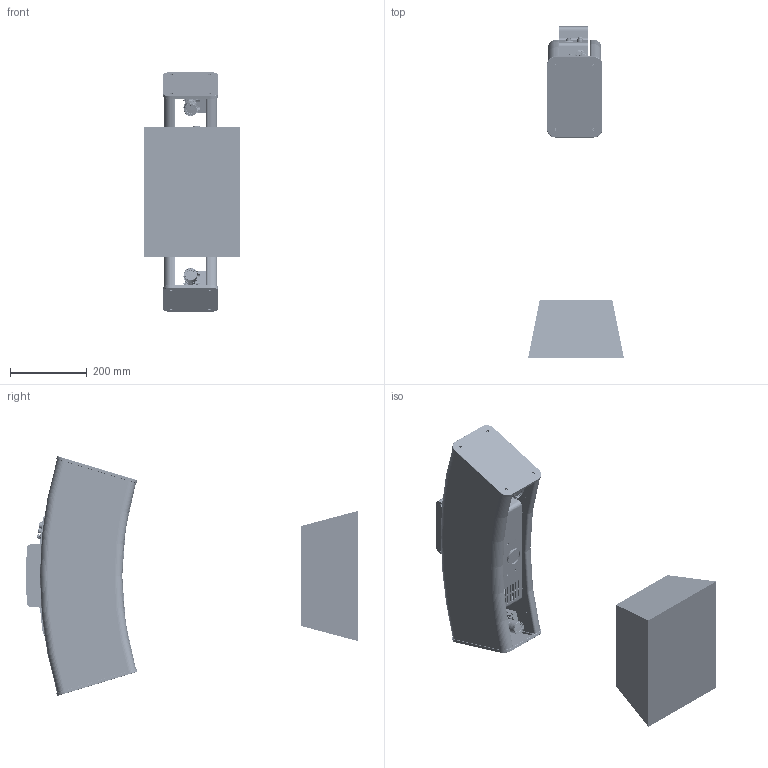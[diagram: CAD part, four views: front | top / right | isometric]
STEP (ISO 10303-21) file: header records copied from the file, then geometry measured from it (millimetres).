
FILE_DESCRIPTION((''),'2;1');
FILE_NAME('0000830494_ASM','2026-02-16T09:57:03',('11001218'),(''),'CREO PARAMETRIC BY PTC INC, 2023154','CREO PARAMETRIC BY PTC INC, 2023154','');
FILE_SCHEMA(('CONFIG_CONTROL_DESIGN'));
Products named in the file (47): 0000821022; 0000826206; 0000828761; 0000827164_ASM; 0000825718; 0000825732; 0000827199; 0000829351; 0000828150_ASM; 0000830611; 0000830456_ASM; 0000830457_ASM; 0000829062; GT218300-02-XX; 0000842409; SC26XX_CAMERA_IO_BOARD; PXC_1249211_01_00_SACC-DSIV-M12; 0000829855; 0000829982; 0000830604; 0000830479_ASM; 0000427151; 0000427153; 0000826972; 0000013146; 0000821173; 0000826927_ASM; 0000827048; VS-MC16H1; 0000194705; 0000013112; 0000024246; 0000145117; 0000013114; 0466016; 0000026021; 0000026018; 0000012527; 0000026036; 0000829387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
Assembly tree (72 placements, depth 6):
  0000830494_ASM
    0000827164_ASM
      0000821022
      0000826206
      0000828761  x2
    0000830479_ASM
      0000830457_ASM
        0000830456_ASM
          0000825718
          0000828150_ASM
            0000825732
            0000827199
            0000829351  x4
          0000830611
      0000829062  x2
      GT218300-02-XX  x2
      0000842409
      SC26XX_CAMERA_IO_BOARD  x2
      PXC_1249211_01_00_SACC-DSIV-M12
      0000829855
      0000829982  x3
      0000830604
    0000427151  x2
    0000427153
    0000826971_ASM  x2
      0000826972
      0000013146
      0000821173
      0000826927_ASM
      0000827048
      VS-MC16H1
      0000194705
      0000013112
      0000024246
      0000145117
      0000013114
      0466016
      0000026021
      0000026018
      0000012527
      0000026036
      0000829387
    0000016432  x2
    0000826884
    0000830586
    0000892254
    0000433293
Bounding box: 250 x 866.73 x 626.21 mm (x, y, z)
Volume: 14993583.4 mm3; surface area: 2041886.7 mm2
Topology: 215 solids, 959 shells, 19308 faces, 59145 edges, 41811 vertices
Faces by surface type: plane 11483, cylinder 5194, cone 825, bspline 689, extrusion 452, torus 443, sphere 222
Entity records: 641072 total; most frequent: CARTESIAN_POINT 224709, ORIENTED_EDGE 85167, DIRECTION 80244, EDGE_CURVE 47380, VERTEX_POINT 33838, VECTOR 32970, LINE 32557, AXIS2_PLACEMENT_3D 23637
